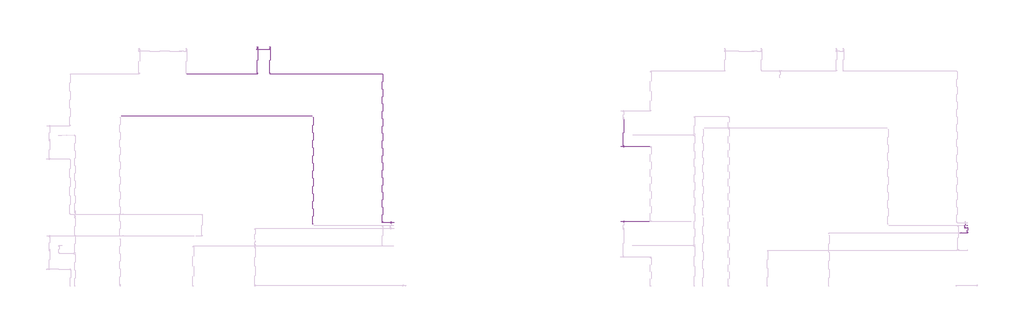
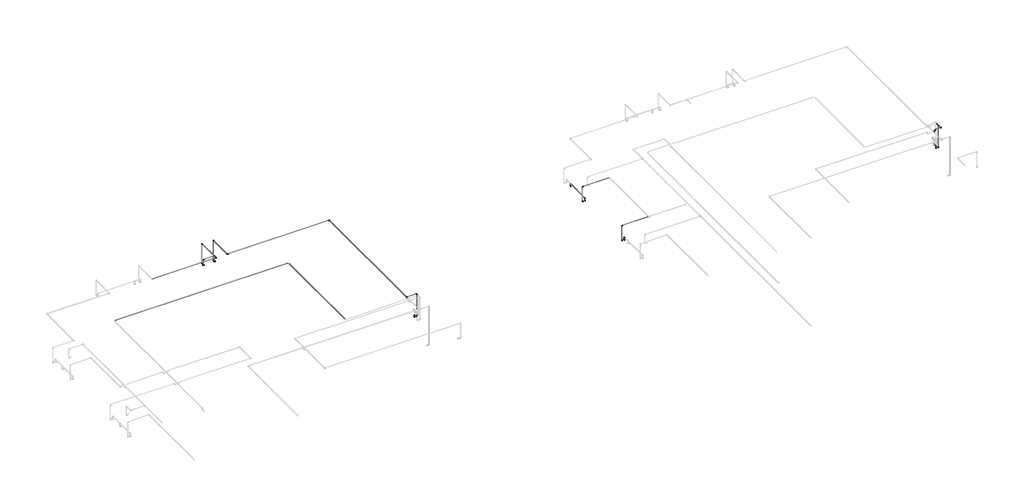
# One storey, part 28 of 40: 35 cable carrier segments, 26 cable carrier fittings, 7 electric appliances.
"""IFC4 building model written with IfcOpenShell, lengths in millimetres."""

from ifc_helpers import new_model, si_unit, point, frame, frame_2d, origin, place, context, project, spatial, circle_curve, trimmed, segment, composite_curve, outline, extrude, transform, mapped, element, save
from components import cable_carrier_fitting_69f1a801, cable_carrier_fitting_42309ea9, electric_appliance_5961a143

model = new_model("IFC4")

# Units and contexts
model_context = context("Model", 3, world=origin())
ifc_project = project(units=[si_unit("LENGTHUNIT", "METRE", prefix="MILLI")], contexts=[model_context])

# Site, building, storey
site = spatial("IfcSite", under=ifc_project)
building = spatial("IfcBuilding", under=site)
storey = spatial("IfcBuildingStorey", under=building, Name="1 этаж", Elevation=0.0)

# Cable carrier fittings
placement = place(None, origin())
cable_carrier_fitting_shape = cable_carrier_fitting_69f1a801(model_context)
element("IfcCableCarrierFitting", 1, ObjectType="ADSK_Поворот_Минимальный размер : Неспецифицируемый", at=placement, inside=storey, context=model_context, shape_type="MappedRepresentation", body=[
    mapped(cable_carrier_fitting_shape, transform((-30452.3240021, 22655.8368161, 2303.0911237), x_axis=(0.0, 1.0, 0.0), y_axis=(0.0, 0.0, 1.0), z_axis=(1.0, 0.0, 0.0))),
])
element("IfcCableCarrierFitting", 2, ObjectType="ADSK_Поворот_Минимальный размер : Неспецифицируемый", at=placement, inside=storey, context=model_context, shape_type="MappedRepresentation", body=[
    mapped(cable_carrier_fitting_shape, transform((-30452.3240021, 22555.6370105, 2550.0), x_axis=(0.0, 0.0, 1.0), y_axis=(1.0, 0.0, 0.0), z_axis=(0.0, 1.0, 0.0))),
])
element("IfcCableCarrierFitting", 3, ObjectType="ADSK_Поворот_Минимальный размер : Неспецифицируемый", at=placement, inside=storey, context=model_context, shape_type="MappedRepresentation", body=[
    mapped(cable_carrier_fitting_shape, transform((-29982.3240021, 22555.6370105, 2550.0), x_axis=(0.0, 0.0, 1.0), y_axis=(-1.0, 0.0, 0.0), z_axis=(0.0, -1.0, 0.0))),
])
element("IfcCableCarrierFitting", 4, ObjectType="ADSK_Поворот_Минимальный размер : Неспецифицируемый", at=placement, inside=storey, context=model_context, shape_type="MappedRepresentation", body=[
    mapped(cable_carrier_fitting_shape, transform((-29982.3240021, 22655.8368161, 2303.0911237), x_axis=(0.0, 1.0, 0.0), y_axis=(0.0, 0.0, 1.0), z_axis=(1.0, 0.0, 0.0))),
])
element("IfcCableCarrierFitting", 5, ObjectType="ADSK_Поворот_Минимальный размер : Неспецифицируемый", at=placement, inside=storey, context=model_context, shape_type="MappedRepresentation", body=[
    mapped(cable_carrier_fitting_shape, transform((-25737.3231226, 21634.6370105, 3189.8517556), x_axis=(0.0, 1.0, 0.0), y_axis=(-1.0, 0.0, 0.0), z_axis=(0.0, 0.0, 1.0))),
])
element("IfcCableCarrierFitting", 6, ObjectType="ADSK_Поворот_Минимальный размер : Неспецифицируемый", at=placement, inside=storey, context=model_context, shape_type="MappedRepresentation", body=[
    mapped(cable_carrier_fitting_shape, transform((-25415.3240021, 16034.6370105, 2300.0), x_axis=(0.0, 0.0, 1.0), y_axis=(0.0, -1.0, 0.0), z_axis=(1.0, 0.0, 0.0))),
])
element("IfcCableCarrierFitting", 7, ObjectType="ADSK_Поворот_Минимальный размер : Неспецифицируемый", at=placement, inside=storey, context=model_context, shape_type="MappedRepresentation", body=[
    mapped(cable_carrier_fitting_shape, transform((-25315.1241965, 16034.6370105, 2212.0911237), x_axis=(1.0, 0.0, 0.0), y_axis=(0.0, 0.0, 1.0), z_axis=(0.0, -1.0, 0.0))),
])
element("IfcCableCarrierFitting", 8, ObjectType="ADSK_Поворот_Минимальный размер : Неспецифицируемый", at=placement, inside=storey, context=model_context, shape_type="MappedRepresentation", body=[
    mapped(cable_carrier_fitting_shape, transform((-25315.1241965, 16034.6370105, 3189.8517556), x_axis=(0.0, 0.0, 1.0), y_axis=(-1.0, 0.0, 0.0), z_axis=(0.0, -1.0, 0.0))),
])
element("IfcCableCarrierFitting", 9, ObjectType="ADSK_Поворот_Минимальный размер : Неспецифицируемый", at=placement, inside=storey, context=model_context, shape_type="MappedRepresentation", body=[
    mapped(cable_carrier_fitting_shape, transform((-25737.3231226, 16034.6370105, 3189.8517556), x_axis=(0.0, -1.0, 0.0), y_axis=(1.0, 0.0, 0.0), z_axis=(0.0, 0.0, 1.0))),
])
element("IfcCableCarrierFitting", 10, ObjectType="ADSK_Поворот_Минимальный размер : Неспецифицируемый", at=placement, inside=storey, context=model_context, shape_type="MappedRepresentation", body=[
    mapped(cable_carrier_fitting_shape, transform((-29982.3240021, 21634.6370105, 3189.8517556), x_axis=(0.0, -1.0, 0.0), y_axis=(1.0, 0.0, 0.0), z_axis=(0.0, 0.0, 1.0))),
])
element("IfcCableCarrierFitting", 11, ObjectType="ADSK_Поворот_Минимальный размер : Неспецифицируемый", at=placement, inside=storey, context=model_context, shape_type="MappedRepresentation", body=[
    mapped(cable_carrier_fitting_shape, transform((-29982.3240021, 22655.8368161, 3189.8517556), x_axis=(0.0, 0.0, 1.0), y_axis=(0.0, -1.0, 0.0), z_axis=(1.0, 0.0, 0.0))),
])
element("IfcCableCarrierFitting", 12, ObjectType="ADSK_Поворот_Минимальный размер : Неспецифицируемый", at=placement, inside=storey, context=model_context, shape_type="MappedRepresentation", body=[
    mapped(cable_carrier_fitting_shape, transform((-30452.3240021, 21634.6370105, 3187.0), x_axis=(1.0, 0.0, 0.0), y_axis=(0.0, 1.0, 0.0), z_axis=(0.0, 0.0, 1.0))),
])
element("IfcCableCarrierFitting", 13, ObjectType="ADSK_Поворот_Минимальный размер : Неспецифицируемый", at=placement, inside=storey, context=model_context, shape_type="MappedRepresentation", body=[
    mapped(cable_carrier_fitting_shape, transform((-30452.3240021, 22655.8368161, 3187.0), x_axis=(0.0, 0.0, 1.0), y_axis=(0.0, -1.0, 0.0), z_axis=(1.0, 0.0, 0.0))),
])
element("IfcCableCarrierFitting", 14, ObjectType="ADSK_Поворот_Минимальный размер : Неспецифицируемый", at=placement, inside=storey, context=model_context, shape_type="MappedRepresentation", body=[
    mapped(cable_carrier_fitting_shape, transform((-16646.3240021, 16064.6370105, 2650.0), x_axis=(0.0, 0.0, 1.0), y_axis=(0.0, -1.0, 0.0), z_axis=(1.0, 0.0, 0.0))),
])
element("IfcCableCarrierFitting", 15, ObjectType="ADSK_Поворот_Минимальный размер : Неспецифицируемый", at=placement, inside=storey, context=model_context, shape_type="MappedRepresentation", body=[
    mapped(cable_carrier_fitting_shape, transform((-16746.5238077, 16064.6370105, 2534.0911237), x_axis=(-1.0, 0.0, 0.0), y_axis=(0.0, 0.0, 1.0), z_axis=(0.0, 1.0, 0.0))),
])
element("IfcCableCarrierFitting", 16, ObjectType="ADSK_Поворот_Минимальный размер : Неспецифицируемый", at=placement, inside=storey, context=model_context, shape_type="MappedRepresentation", body=[
    mapped(cable_carrier_fitting_shape, transform((-16646.3240021, 18899.6370105, 2650.0), x_axis=(0.0, 0.0, 1.0), y_axis=(0.0, 1.0, 0.0), z_axis=(-1.0, 0.0, 0.0))),
])
element("IfcCableCarrierFitting", 17, ObjectType="ADSK_Поворот_Минимальный размер : Неспецифицируемый", at=placement, inside=storey, context=model_context, shape_type="MappedRepresentation", body=[
    mapped(cable_carrier_fitting_shape, transform((-16746.5238077, 18899.6370105, 2534.0911237), x_axis=(-1.0, 0.0, 0.0), y_axis=(0.0, 0.0, 1.0), z_axis=(0.0, 1.0, 0.0))),
])
element("IfcCableCarrierFitting", 18, ObjectType="ADSK_Поворот_Минимальный размер : Неспецифицируемый", at=placement, inside=storey, context=model_context, shape_type="MappedRepresentation", body=[
    mapped(cable_carrier_fitting_shape, transform((-16746.5238077, 18899.6370105, 3187.0), x_axis=(0.0, 0.0, 1.0), y_axis=(1.0, 0.0, 0.0), z_axis=(0.0, 1.0, 0.0))),
])
element("IfcCableCarrierFitting", 19, ObjectType="ADSK_Поворот_Минимальный размер : Неспецифицируемый", at=placement, inside=storey, context=model_context, shape_type="MappedRepresentation", body=[
    mapped(cable_carrier_fitting_shape, transform((-3675.1219918, 15834.6336722, 2212.0958028), x_axis=(1.0, 0.0, 0.0), y_axis=(0.0, 0.0, 1.0), z_axis=(0.0, -1.0, 0.0))),
])
element("IfcCableCarrierFitting", 20, ObjectType="ADSK_Поворот_Минимальный размер : Неспецифицируемый", at=placement, inside=storey, context=model_context, shape_type="MappedRepresentation", body=[
    mapped(cable_carrier_fitting_shape, transform((-3675.1219918, 15834.6336722, 3187.0), x_axis=(0.0, 0.0, 1.0), y_axis=(0.0, -1.0, 0.0), z_axis=(1.0, 0.0, 0.0))),
])
element("IfcCableCarrierFitting", 21, ObjectType="ADSK_Поворот_Минимальный размер : Неспецифицируемый", at=placement, inside=storey, context=model_context, shape_type="MappedRepresentation", body=[
    mapped(cable_carrier_fitting_shape, transform((-3675.1113327, 15646.0044154, 3187.0), x_axis=(1.0, 0.0, 0.0), y_axis=(0.0, 1.0, 0.0), z_axis=(0.0, 0.0, 1.0))),
])
element("IfcCableCarrierFitting", 22, ObjectType="ADSK_Поворот_Минимальный размер : Неспецифицируемый", at=placement, inside=storey, context=model_context, shape_type="MappedRepresentation", body=[
    mapped(cable_carrier_fitting_shape, transform((-3935.1241965, 15646.0044154, 3187.0), x_axis=(-1.0, 0.0, 0.0), y_axis=(0.0, 0.0, -1.0), z_axis=(0.0, -1.0, 0.0))),
])
element("IfcCableCarrierFitting", 23, ObjectType="ADSK_Поворот_Минимальный размер : Неспецифицируемый", at=placement, inside=storey, context=model_context, shape_type="MappedRepresentation", body=[
    mapped(cable_carrier_fitting_shape, transform((-3935.1241965, 15646.0044154, 3120.0), x_axis=(0.0, 0.0, -1.0), y_axis=(-1.0, 0.0, 0.0), z_axis=(0.0, 1.0, 0.0))),
])
element("IfcCableCarrierFitting", 24, ObjectType="ADSK_Поворот_Минимальный размер : Неспецифицируемый", at=placement, inside=storey, context=model_context, shape_type="MappedRepresentation", body=[
    mapped(cable_carrier_fitting_shape, transform((-16746.5238077, 16064.6370105, 3187.0), x_axis=(0.0, 0.0, 1.0), y_axis=(1.0, 0.0, 0.0), z_axis=(0.0, 1.0, 0.0))),
])
element("IfcCableCarrierFitting", 25, ObjectType="ADSK_Поворот_Минимальный размер : Неспецифицируемый", at=placement, inside=storey, context=model_context, shape_type="MappedRepresentation", body=[
    mapped(cable_carrier_fitting_shape, transform((-3775.3240021, 15834.6370105, 2300.0), x_axis=(0.0, 0.0, 1.0), y_axis=(0.0, 1.0, 0.0), z_axis=(-1.0, 0.0, 0.0))),
])
cable_carrier_fitting_2_shape = cable_carrier_fitting_42309ea9(model_context)
element("IfcCableCarrierFitting", 26, ObjectType="ADSK_Поворот_Минимальный размер : Неспецифицируемый", at=placement, inside=storey, context=model_context, shape_type="MappedRepresentation", body=[
    mapped(cable_carrier_fitting_2_shape, transform((-3675.1241965, 15927.1370105, 3189.3033715), x_axis=(0.0, 0.0, 1.0), y_axis=(-1.0, 0.0, 0.0), z_axis=(0.0, -1.0, 0.0))),
])

# Cable carrier segments
element("IfcCableCarrierSegment", 27, ObjectType="Гофрированная труба", at=placement, inside=storey, context=model_context, shape_type="SweptSolid", body=[
    extrude(outline(composite_curve([segment(trimmed(circle_curve(frame_2d((20039.6370105, 3189.9843831)), 10.0), [point((20049.6370105, 3189.9843831))], [point((20039.6370105, 3179.9843831))], False, "CARTESIAN"), True, "CONTINUOUS"), segment(trimmed(circle_curve(frame_2d((20039.6370105, 3189.9843831)), 10.0), [point((20039.6370105, 3179.9843831))], [point((20029.6370105, 3189.9843831))], False, "CARTESIAN"), True, "CONTINUOUS"), segment(trimmed(circle_curve(frame_2d((20039.6370105, 3189.9843831)), 10.0), [point((20029.6370105, 3189.9843831))], [point((20039.6370105, 3199.9843831))], False, "CARTESIAN"), True, "CONTINUOUS"), segment(trimmed(circle_curve(frame_2d((20039.6370105, 3189.9843831)), 10.0), [point((20039.6370105, 3199.9843831))], [point((20049.6370105, 3189.9843831))], False, "CARTESIAN"), True, "CONTINUOUS")], self_intersect=False)), frame((-35576.5641762, 0.0, 0.0), z_axis=(1.0, 0.0, 0.0), x_axis=(0.0, 1.0, 0.0)), (0.0, 0.0, 1.0), 7177.7401741),
])
element("IfcCableCarrierSegment", 28, ObjectType="Гофрированная труба", at=placement, inside=storey, context=model_context, shape_type="SweptSolid", body=[
    extrude(outline(composite_curve([segment(trimmed(circle_curve(frame_2d((3189.9843831, -28352.3240021)), 10.0), [point((3189.9843831, -28342.3240021))], [point((3199.9843831, -28352.3240021))], False, "CARTESIAN"), True, "CONTINUOUS"), segment(trimmed(circle_curve(frame_2d((3189.9843831, -28352.3240021)), 10.0), [point((3199.9843831, -28352.3240021))], [point((3189.9843831, -28362.3240021))], False, "CARTESIAN"), True, "CONTINUOUS"), segment(trimmed(circle_curve(frame_2d((3189.9843831, -28352.3240021)), 10.0), [point((3189.9843831, -28362.3240021))], [point((3179.9843831, -28352.3240021))], False, "CARTESIAN"), True, "CONTINUOUS"), segment(trimmed(circle_curve(frame_2d((3189.9843831, -28352.3240021)), 10.0), [point((3179.9843831, -28352.3240021))], [point((3189.9843831, -28342.3240021))], False, "CARTESIAN"), True, "CONTINUOUS")], self_intersect=False)), frame((0.0, 15973.6370105, 0.0), z_axis=(0.0, 1.0, 0.0), x_axis=(0.0, 0.0, 1.0)), (0.0, 0.0, 1.0), 4019.5),
])
element("IfcCableCarrierSegment", 29, ObjectType="Гофрированная труба", at=placement, inside=storey, context=model_context, shape_type="SweptSolid", body=[
    extrude(outline(composite_curve([segment(trimmed(circle_curve(frame_2d((21634.6370105, 3189.8517556)), 10.0), [point((21624.6370105, 3189.8517556))], [point((21634.6370105, 3199.8517556))], False, "CARTESIAN"), True, "CONTINUOUS"), segment(trimmed(circle_curve(frame_2d((21634.6370105, 3189.8517556)), 10.0), [point((21634.6370105, 3199.8517556))], [point((21644.6370105, 3189.8517556))], False, "CARTESIAN"), True, "CONTINUOUS"), segment(trimmed(circle_curve(frame_2d((21634.6370105, 3189.8517556)), 10.0), [point((21644.6370105, 3189.8517556))], [point((21634.6370105, 3179.8517556))], False, "CARTESIAN"), True, "CONTINUOUS"), segment(trimmed(circle_curve(frame_2d((21634.6370105, 3189.8517556)), 10.0), [point((21634.6370105, 3179.8517556))], [point((21624.6370105, 3189.8517556))], False, "CARTESIAN"), True, "CONTINUOUS")], self_intersect=False)), frame((-29961.3240021, 0.0, 0.0), z_axis=(1.0, 0.0, 0.0), x_axis=(0.0, 1.0, 0.0)), (0.0, 0.0, 1.0), 4203.0008795),
])
element("IfcCableCarrierSegment", 30, ObjectType="Гофрированная труба", at=placement, inside=storey, context=model_context, shape_type="SweptSolid", body=[
    extrude(outline(composite_curve([segment(trimmed(circle_curve(frame_2d((-29982.3240021, 22555.6370105)), 10.0), [point((-29992.3240021, 22555.6370105))], [point((-29982.3240021, 22565.6370105))], False, "CARTESIAN"), True, "CONTINUOUS"), segment(trimmed(circle_curve(frame_2d((-29982.3240021, 22555.6370105)), 10.0), [point((-29982.3240021, 22565.6370105))], [point((-29972.3240021, 22555.6370105))], False, "CARTESIAN"), True, "CONTINUOUS"), segment(trimmed(circle_curve(frame_2d((-29982.3240021, 22555.6370105)), 10.0), [point((-29972.3240021, 22555.6370105))], [point((-29982.3240021, 22545.6370105))], False, "CARTESIAN"), True, "CONTINUOUS"), segment(trimmed(circle_curve(frame_2d((-29982.3240021, 22555.6370105)), 10.0), [point((-29982.3240021, 22545.6370105))], [point((-29992.3240021, 22555.6370105))], False, "CARTESIAN"), True, "CONTINUOUS")], self_intersect=False)), frame((0.0, 0.0, 2332.1207114), z_axis=(0.0, 0.0, 1.0), x_axis=(1.0, 0.0, 0.0)), (0.0, 0.0, 1.0), 196.8792886),
])
element("IfcCableCarrierSegment", 31, ObjectType="Гофрированная труба", at=placement, inside=storey, context=model_context, shape_type="SweptSolid", body=[
    extrude(outline(composite_curve([segment(trimmed(circle_curve(frame_2d((3187.0, -30452.3240021)), 10.0), [point((3187.0, -30442.3240021))], [point((3197.0, -30452.3240021))], False, "CARTESIAN"), True, "CONTINUOUS"), segment(trimmed(circle_curve(frame_2d((3187.0, -30452.3240021)), 10.0), [point((3197.0, -30452.3240021))], [point((3187.0, -30462.3240021))], False, "CARTESIAN"), True, "CONTINUOUS"), segment(trimmed(circle_curve(frame_2d((3187.0, -30452.3240021)), 10.0), [point((3187.0, -30462.3240021))], [point((3177.0, -30452.3240021))], False, "CARTESIAN"), True, "CONTINUOUS"), segment(trimmed(circle_curve(frame_2d((3187.0, -30452.3240021)), 10.0), [point((3177.0, -30452.3240021))], [point((3187.0, -30442.3240021))], False, "CARTESIAN"), True, "CONTINUOUS")], self_intersect=False)), frame((0.0, 21655.6370105, 0.0), z_axis=(0.0, 1.0, 0.0), x_axis=(0.0, 0.0, 1.0)), (0.0, 0.0, 1.0), 979.1998056),
])
element("IfcCableCarrierSegment", 32, ObjectType="Гофрированная труба", at=placement, inside=storey, context=model_context, shape_type="SweptSolid", body=[
    extrude(outline(composite_curve([segment(trimmed(circle_curve(frame_2d((2303.0911237, -30452.3240021)), 10.0), [point((2303.0911237, -30442.3240021))], [point((2313.0911237, -30452.3240021))], False, "CARTESIAN"), True, "CONTINUOUS"), segment(trimmed(circle_curve(frame_2d((2303.0911237, -30452.3240021)), 10.0), [point((2313.0911237, -30452.3240021))], [point((2303.0911237, -30462.3240021))], False, "CARTESIAN"), True, "CONTINUOUS"), segment(trimmed(circle_curve(frame_2d((2303.0911237, -30452.3240021)), 10.0), [point((2303.0911237, -30462.3240021))], [point((2293.0911237, -30452.3240021))], False, "CARTESIAN"), True, "CONTINUOUS"), segment(trimmed(circle_curve(frame_2d((2303.0911237, -30452.3240021)), 10.0), [point((2293.0911237, -30452.3240021))], [point((2303.0911237, -30442.3240021))], False, "CARTESIAN"), True, "CONTINUOUS")], self_intersect=False)), frame((0.0, 22558.6370105, 0.0), z_axis=(0.0, 1.0, 0.0), x_axis=(0.0, 0.0, 1.0)), (0.0, 0.0, 1.0), 76.1998056),
])
element("IfcCableCarrierSegment", 33, ObjectType="Гофрированная труба", at=placement, inside=storey, context=model_context, shape_type="SweptSolid", body=[
    extrude(outline(composite_curve([segment(trimmed(circle_curve(frame_2d((-30452.3240021, 22655.8368161)), 10.0), [point((-30462.3240021, 22655.8368161))], [point((-30452.3240021, 22665.8368161))], False, "CARTESIAN"), True, "CONTINUOUS"), segment(trimmed(circle_curve(frame_2d((-30452.3240021, 22655.8368161)), 10.0), [point((-30452.3240021, 22665.8368161))], [point((-30442.3240021, 22655.8368161))], False, "CARTESIAN"), True, "CONTINUOUS"), segment(trimmed(circle_curve(frame_2d((-30452.3240021, 22655.8368161)), 10.0), [point((-30442.3240021, 22655.8368161))], [point((-30452.3240021, 22645.8368161))], False, "CARTESIAN"), True, "CONTINUOUS"), segment(trimmed(circle_curve(frame_2d((-30452.3240021, 22655.8368161)), 10.0), [point((-30452.3240021, 22645.8368161))], [point((-30462.3240021, 22655.8368161))], False, "CARTESIAN"), True, "CONTINUOUS")], self_intersect=False)), frame((0.0, 0.0, 2324.0911237), z_axis=(0.0, 0.0, 1.0), x_axis=(1.0, 0.0, 0.0)), (0.0, 0.0, 1.0), 841.9088763),
])
element("IfcCableCarrierSegment", 34, ObjectType="Гофрированная труба", at=placement, inside=storey, context=model_context, shape_type="SweptSolid", body=[
    extrude(outline(composite_curve([segment(trimmed(circle_curve(frame_2d((22555.6370105, 2550.0)), 10.0), [point((22545.6370105, 2550.0))], [point((22555.6370105, 2560.0))], False, "CARTESIAN"), True, "CONTINUOUS"), segment(trimmed(circle_curve(frame_2d((22555.6370105, 2550.0)), 10.0), [point((22555.6370105, 2560.0))], [point((22565.6370105, 2550.0))], False, "CARTESIAN"), True, "CONTINUOUS"), segment(trimmed(circle_curve(frame_2d((22555.6370105, 2550.0)), 10.0), [point((22565.6370105, 2550.0))], [point((22555.6370105, 2540.0))], False, "CARTESIAN"), True, "CONTINUOUS"), segment(trimmed(circle_curve(frame_2d((22555.6370105, 2550.0)), 10.0), [point((22555.6370105, 2540.0))], [point((22545.6370105, 2550.0))], False, "CARTESIAN"), True, "CONTINUOUS")], self_intersect=False)), frame((-30431.3240021, 0.0, 0.0), z_axis=(1.0, 0.0, 0.0), x_axis=(0.0, 1.0, 0.0)), (0.0, 0.0, 1.0), 428.0),
])
element("IfcCableCarrierSegment", 35, ObjectType="Гофрированная труба", at=placement, inside=storey, context=model_context, shape_type="SweptSolid", body=[
    extrude(outline(composite_curve([segment(trimmed(circle_curve(frame_2d((-30452.3240021, 22555.6370105)), 10.0), [point((-30462.3240021, 22555.6370105))], [point((-30452.3240021, 22565.6370105))], False, "CARTESIAN"), True, "CONTINUOUS"), segment(trimmed(circle_curve(frame_2d((-30452.3240021, 22555.6370105)), 10.0), [point((-30452.3240021, 22565.6370105))], [point((-30442.3240021, 22555.6370105))], False, "CARTESIAN"), True, "CONTINUOUS"), segment(trimmed(circle_curve(frame_2d((-30452.3240021, 22555.6370105)), 10.0), [point((-30442.3240021, 22555.6370105))], [point((-30452.3240021, 22545.6370105))], False, "CARTESIAN"), True, "CONTINUOUS"), segment(trimmed(circle_curve(frame_2d((-30452.3240021, 22555.6370105)), 10.0), [point((-30452.3240021, 22545.6370105))], [point((-30462.3240021, 22555.6370105))], False, "CARTESIAN"), True, "CONTINUOUS")], self_intersect=False)), frame((0.0, 0.0, 2332.1207114), z_axis=(0.0, 0.0, 1.0), x_axis=(1.0, 0.0, 0.0)), (0.0, 0.0, 1.0), 196.8792886),
])
element("IfcCableCarrierSegment", 36, ObjectType="Гофрированная труба", at=placement, inside=storey, context=model_context, shape_type="SweptSolid", body=[
    extrude(outline(composite_curve([segment(trimmed(circle_curve(frame_2d((3189.8517556, -29982.3240021)), 10.0), [point((3189.8517556, -29972.3240021))], [point((3199.8517556, -29982.3240021))], False, "CARTESIAN"), True, "CONTINUOUS"), segment(trimmed(circle_curve(frame_2d((3189.8517556, -29982.3240021)), 10.0), [point((3199.8517556, -29982.3240021))], [point((3189.8517556, -29992.3240021))], False, "CARTESIAN"), True, "CONTINUOUS"), segment(trimmed(circle_curve(frame_2d((3189.8517556, -29982.3240021)), 10.0), [point((3189.8517556, -29992.3240021))], [point((3179.8517556, -29982.3240021))], False, "CARTESIAN"), True, "CONTINUOUS"), segment(trimmed(circle_curve(frame_2d((3189.8517556, -29982.3240021)), 10.0), [point((3179.8517556, -29982.3240021))], [point((3189.8517556, -29972.3240021))], False, "CARTESIAN"), True, "CONTINUOUS")], self_intersect=False)), frame((0.0, 21655.6370105, 0.0), z_axis=(0.0, 1.0, 0.0), x_axis=(0.0, 0.0, 1.0)), (0.0, 0.0, 1.0), 979.1998056),
])
element("IfcCableCarrierSegment", 37, ObjectType="Гофрированная труба", at=placement, inside=storey, context=model_context, shape_type="SweptSolid", body=[
    extrude(outline(composite_curve([segment(trimmed(circle_curve(frame_2d((2303.0911237, -29982.3240021)), 10.0), [point((2303.0911237, -29972.3240021))], [point((2313.0911237, -29982.3240021))], False, "CARTESIAN"), True, "CONTINUOUS"), segment(trimmed(circle_curve(frame_2d((2303.0911237, -29982.3240021)), 10.0), [point((2313.0911237, -29982.3240021))], [point((2303.0911237, -29992.3240021))], False, "CARTESIAN"), True, "CONTINUOUS"), segment(trimmed(circle_curve(frame_2d((2303.0911237, -29982.3240021)), 10.0), [point((2303.0911237, -29992.3240021))], [point((2293.0911237, -29982.3240021))], False, "CARTESIAN"), True, "CONTINUOUS"), segment(trimmed(circle_curve(frame_2d((2303.0911237, -29982.3240021)), 10.0), [point((2293.0911237, -29982.3240021))], [point((2303.0911237, -29972.3240021))], False, "CARTESIAN"), True, "CONTINUOUS")], self_intersect=False)), frame((0.0, 22558.6370105, 0.0), z_axis=(0.0, 1.0, 0.0), x_axis=(0.0, 0.0, 1.0)), (0.0, 0.0, 1.0), 76.1998056),
])
element("IfcCableCarrierSegment", 38, ObjectType="Гофрированная труба", at=placement, inside=storey, context=model_context, shape_type="SweptSolid", body=[
    extrude(outline(composite_curve([segment(trimmed(circle_curve(frame_2d((-29982.3240021, 22655.8368161)), 10.0), [point((-29992.3240021, 22655.8368161))], [point((-29982.3240021, 22665.8368161))], False, "CARTESIAN"), True, "CONTINUOUS"), segment(trimmed(circle_curve(frame_2d((-29982.3240021, 22655.8368161)), 10.0), [point((-29982.3240021, 22665.8368161))], [point((-29972.3240021, 22655.8368161))], False, "CARTESIAN"), True, "CONTINUOUS"), segment(trimmed(circle_curve(frame_2d((-29982.3240021, 22655.8368161)), 10.0), [point((-29972.3240021, 22655.8368161))], [point((-29982.3240021, 22645.8368161))], False, "CARTESIAN"), True, "CONTINUOUS"), segment(trimmed(circle_curve(frame_2d((-29982.3240021, 22655.8368161)), 10.0), [point((-29982.3240021, 22645.8368161))], [point((-29992.3240021, 22655.8368161))], False, "CARTESIAN"), True, "CONTINUOUS")], self_intersect=False)), frame((0.0, 0.0, 2324.0911237), z_axis=(0.0, 0.0, 1.0), x_axis=(1.0, 0.0, 0.0)), (0.0, 0.0, 1.0), 844.7606319),
])
element("IfcCableCarrierSegment", 39, ObjectType="Гофрированная труба", at=placement, inside=storey, context=model_context, shape_type="SweptSolid", body=[
    extrude(outline(composite_curve([segment(trimmed(circle_curve(frame_2d((21634.6370105, 3187.0)), 10.0), [point((21624.6370105, 3187.0))], [point((21634.6370105, 3197.0))], False, "CARTESIAN"), True, "CONTINUOUS"), segment(trimmed(circle_curve(frame_2d((21634.6370105, 3187.0)), 10.0), [point((21634.6370105, 3197.0))], [point((21644.6370105, 3187.0))], False, "CARTESIAN"), True, "CONTINUOUS"), segment(trimmed(circle_curve(frame_2d((21634.6370105, 3187.0)), 10.0), [point((21644.6370105, 3187.0))], [point((21634.6370105, 3177.0))], False, "CARTESIAN"), True, "CONTINUOUS"), segment(trimmed(circle_curve(frame_2d((21634.6370105, 3187.0)), 10.0), [point((21634.6370105, 3177.0))], [point((21624.6370105, 3187.0))], False, "CARTESIAN"), True, "CONTINUOUS")], self_intersect=False)), frame((-33101.3240021, 0.0, 0.0), z_axis=(1.0, 0.0, 0.0), x_axis=(0.0, 1.0, 0.0)), (0.0, 0.0, 1.0), 2628.0),
])
element("IfcCableCarrierSegment", 40, ObjectType="Гофрированная труба", at=placement, inside=storey, context=model_context, shape_type="SweptSolid", body=[
    extrude(outline(composite_curve([segment(trimmed(circle_curve(frame_2d((-25415.3240021, 16034.6370105)), 10.0), [point((-25425.3240021, 16034.6370105))], [point((-25415.3240021, 16044.6370105))], False, "CARTESIAN"), True, "CONTINUOUS"), segment(trimmed(circle_curve(frame_2d((-25415.3240021, 16034.6370105)), 10.0), [point((-25415.3240021, 16044.6370105))], [point((-25405.3240021, 16034.6370105))], False, "CARTESIAN"), True, "CONTINUOUS"), segment(trimmed(circle_curve(frame_2d((-25415.3240021, 16034.6370105)), 10.0), [point((-25405.3240021, 16034.6370105))], [point((-25415.3240021, 16024.6370105))], False, "CARTESIAN"), True, "CONTINUOUS"), segment(trimmed(circle_curve(frame_2d((-25415.3240021, 16034.6370105)), 10.0), [point((-25415.3240021, 16024.6370105))], [point((-25425.3240021, 16034.6370105))], False, "CARTESIAN"), True, "CONTINUOUS")], self_intersect=False)), frame((0.0, 0.0, 2241.1207114), z_axis=(0.0, 0.0, 1.0), x_axis=(1.0, 0.0, 0.0)), (0.0, 0.0, 1.0), 37.8792886),
])
element("IfcCableCarrierSegment", 41, ObjectType="Гофрированная труба", at=placement, inside=storey, context=model_context, shape_type="SweptSolid", body=[
    extrude(outline(composite_curve([segment(trimmed(circle_curve(frame_2d((16034.6370105, 3189.8517556)), 10.0), [point((16044.6370105, 3189.8517556))], [point((16034.6370105, 3179.8517556))], False, "CARTESIAN"), True, "CONTINUOUS"), segment(trimmed(circle_curve(frame_2d((16034.6370105, 3189.8517556)), 10.0), [point((16034.6370105, 3179.8517556))], [point((16024.6370105, 3189.8517556))], False, "CARTESIAN"), True, "CONTINUOUS"), segment(trimmed(circle_curve(frame_2d((16034.6370105, 3189.8517556)), 10.0), [point((16024.6370105, 3189.8517556))], [point((16034.6370105, 3199.8517556))], False, "CARTESIAN"), True, "CONTINUOUS"), segment(trimmed(circle_curve(frame_2d((16034.6370105, 3189.8517556)), 10.0), [point((16034.6370105, 3199.8517556))], [point((16044.6370105, 3189.8517556))], False, "CARTESIAN"), True, "CONTINUOUS")], self_intersect=False)), frame((-25716.3231226, 0.0, 0.0), z_axis=(1.0, 0.0, 0.0), x_axis=(0.0, 1.0, 0.0)), (0.0, 0.0, 1.0), 380.1989261),
])
element("IfcCableCarrierSegment", 42, ObjectType="Гофрированная труба", at=placement, inside=storey, context=model_context, shape_type="SweptSolid", body=[
    extrude(outline(composite_curve([segment(trimmed(circle_curve(frame_2d((16034.6370105, 2212.0911237)), 10.0), [point((16024.6370105, 2212.0911237))], [point((16034.6370105, 2222.0911237))], False, "CARTESIAN"), True, "CONTINUOUS"), segment(trimmed(circle_curve(frame_2d((16034.6370105, 2212.0911237)), 10.0), [point((16034.6370105, 2222.0911237))], [point((16044.6370105, 2212.0911237))], False, "CARTESIAN"), True, "CONTINUOUS"), segment(trimmed(circle_curve(frame_2d((16034.6370105, 2212.0911237)), 10.0), [point((16044.6370105, 2212.0911237))], [point((16034.6370105, 2202.0911237))], False, "CARTESIAN"), True, "CONTINUOUS"), segment(trimmed(circle_curve(frame_2d((16034.6370105, 2212.0911237)), 10.0), [point((16034.6370105, 2202.0911237))], [point((16024.6370105, 2212.0911237))], False, "CARTESIAN"), True, "CONTINUOUS")], self_intersect=False)), frame((-25412.3240021, 0.0, 0.0), z_axis=(1.0, 0.0, 0.0), x_axis=(0.0, 1.0, 0.0)), (0.0, 0.0, 1.0), 76.1998056),
])
element("IfcCableCarrierSegment", 43, ObjectType="Гофрированная труба", at=placement, inside=storey, context=model_context, shape_type="SweptSolid", body=[
    extrude(outline(composite_curve([segment(trimmed(circle_curve(frame_2d((-25315.1241965, 16034.6370105)), 10.0), [point((-25325.1241965, 16034.6370105))], [point((-25315.1241965, 16044.6370105))], False, "CARTESIAN"), True, "CONTINUOUS"), segment(trimmed(circle_curve(frame_2d((-25315.1241965, 16034.6370105)), 10.0), [point((-25315.1241965, 16044.6370105))], [point((-25305.1241965, 16034.6370105))], False, "CARTESIAN"), True, "CONTINUOUS"), segment(trimmed(circle_curve(frame_2d((-25315.1241965, 16034.6370105)), 10.0), [point((-25305.1241965, 16034.6370105))], [point((-25315.1241965, 16024.6370105))], False, "CARTESIAN"), True, "CONTINUOUS"), segment(trimmed(circle_curve(frame_2d((-25315.1241965, 16034.6370105)), 10.0), [point((-25315.1241965, 16024.6370105))], [point((-25325.1241965, 16034.6370105))], False, "CARTESIAN"), True, "CONTINUOUS")], self_intersect=False)), frame((0.0, 0.0, 2233.0911237), z_axis=(0.0, 0.0, 1.0), x_axis=(1.0, 0.0, 0.0)), (0.0, 0.0, 1.0), 935.7606319),
])
element("IfcCableCarrierSegment", 44, ObjectType="Гофрированная труба", at=placement, inside=storey, context=model_context, shape_type="SweptSolid", body=[
    extrude(outline(composite_curve([segment(trimmed(circle_curve(frame_2d((3189.8517556, -25737.3231226)), 10.0), [point((3189.8517556, -25747.3231226))], [point((3179.8517556, -25737.3231226))], False, "CARTESIAN"), True, "CONTINUOUS"), segment(trimmed(circle_curve(frame_2d((3189.8517556, -25737.3231226)), 10.0), [point((3179.8517556, -25737.3231226))], [point((3189.8517556, -25727.3231226))], False, "CARTESIAN"), True, "CONTINUOUS"), segment(trimmed(circle_curve(frame_2d((3189.8517556, -25737.3231226)), 10.0), [point((3189.8517556, -25727.3231226))], [point((3199.8517556, -25737.3231226))], False, "CARTESIAN"), True, "CONTINUOUS"), segment(trimmed(circle_curve(frame_2d((3189.8517556, -25737.3231226)), 10.0), [point((3199.8517556, -25737.3231226))], [point((3189.8517556, -25747.3231226))], False, "CARTESIAN"), True, "CONTINUOUS")], self_intersect=False)), frame((0.0, 16055.6370105, 0.0), z_axis=(0.0, 1.0, 0.0), x_axis=(0.0, 0.0, 1.0)), (0.0, 0.0, 1.0), 5558.0),
])
element("IfcCableCarrierSegment", 45, ObjectType="Гофрированная труба", at=placement, inside=storey, context=model_context, shape_type="SweptSolid", body=[
    extrude(outline(composite_curve([segment(trimmed(circle_curve(frame_2d((-16646.3240021, 16064.6370105)), 10.0), [point((-16656.3240021, 16064.6370105))], [point((-16646.3240021, 16074.6370105))], False, "CARTESIAN"), True, "CONTINUOUS"), segment(trimmed(circle_curve(frame_2d((-16646.3240021, 16064.6370105)), 10.0), [point((-16646.3240021, 16074.6370105))], [point((-16636.3240021, 16064.6370105))], False, "CARTESIAN"), True, "CONTINUOUS"), segment(trimmed(circle_curve(frame_2d((-16646.3240021, 16064.6370105)), 10.0), [point((-16636.3240021, 16064.6370105))], [point((-16646.3240021, 16054.6370105))], False, "CARTESIAN"), True, "CONTINUOUS"), segment(trimmed(circle_curve(frame_2d((-16646.3240021, 16064.6370105)), 10.0), [point((-16646.3240021, 16054.6370105))], [point((-16656.3240021, 16064.6370105))], False, "CARTESIAN"), True, "CONTINUOUS")], self_intersect=False)), frame((0.0, 0.0, 2563.1207114), z_axis=(0.0, 0.0, 1.0), x_axis=(1.0, 0.0, 0.0)), (0.0, 0.0, 1.0), 65.8792886),
])
element("IfcCableCarrierSegment", 46, ObjectType="Гофрированная труба", at=placement, inside=storey, context=model_context, shape_type="SweptSolid", body=[
    extrude(outline(composite_curve([segment(trimmed(circle_curve(frame_2d((16064.6370105, 2534.0911237)), 10.0), [point((16074.6370105, 2534.0911237))], [point((16064.6370105, 2524.0911237))], False, "CARTESIAN"), True, "CONTINUOUS"), segment(trimmed(circle_curve(frame_2d((16064.6370105, 2534.0911237)), 10.0), [point((16064.6370105, 2524.0911237))], [point((16054.6370105, 2534.0911237))], False, "CARTESIAN"), True, "CONTINUOUS"), segment(trimmed(circle_curve(frame_2d((16064.6370105, 2534.0911237)), 10.0), [point((16054.6370105, 2534.0911237))], [point((16064.6370105, 2544.0911237))], False, "CARTESIAN"), True, "CONTINUOUS"), segment(trimmed(circle_curve(frame_2d((16064.6370105, 2534.0911237)), 10.0), [point((16064.6370105, 2544.0911237))], [point((16074.6370105, 2534.0911237))], False, "CARTESIAN"), True, "CONTINUOUS")], self_intersect=False)), frame((-16725.5238077, 0.0, 0.0), z_axis=(1.0, 0.0, 0.0), x_axis=(0.0, 1.0, 0.0)), (0.0, 0.0, 1.0), 76.1998056),
])
element("IfcCableCarrierSegment", 47, ObjectType="Гофрированная труба", at=placement, inside=storey, context=model_context, shape_type="SweptSolid", body=[
    extrude(outline(composite_curve([segment(trimmed(circle_curve(frame_2d((-16746.5238077, 16064.6370105)), 10.0), [point((-16756.5238077, 16064.6370105))], [point((-16746.5238077, 16074.6370105))], False, "CARTESIAN"), True, "CONTINUOUS"), segment(trimmed(circle_curve(frame_2d((-16746.5238077, 16064.6370105)), 10.0), [point((-16746.5238077, 16074.6370105))], [point((-16736.5238077, 16064.6370105))], False, "CARTESIAN"), True, "CONTINUOUS"), segment(trimmed(circle_curve(frame_2d((-16746.5238077, 16064.6370105)), 10.0), [point((-16736.5238077, 16064.6370105))], [point((-16746.5238077, 16054.6370105))], False, "CARTESIAN"), True, "CONTINUOUS"), segment(trimmed(circle_curve(frame_2d((-16746.5238077, 16064.6370105)), 10.0), [point((-16746.5238077, 16054.6370105))], [point((-16756.5238077, 16064.6370105))], False, "CARTESIAN"), True, "CONTINUOUS")], self_intersect=False)), frame((0.0, 0.0, 2555.0911237), z_axis=(0.0, 0.0, 1.0), x_axis=(1.0, 0.0, 0.0)), (0.0, 0.0, 1.0), 610.9088763),
])
element("IfcCableCarrierSegment", 48, ObjectType="Гофрированная труба", at=placement, inside=storey, context=model_context, shape_type="SweptSolid", body=[
    extrude(outline(composite_curve([segment(trimmed(circle_curve(frame_2d((-16646.3240021, 18899.6370105)), 10.0), [point((-16656.3240021, 18899.6370105))], [point((-16646.3240021, 18909.6370105))], False, "CARTESIAN"), True, "CONTINUOUS"), segment(trimmed(circle_curve(frame_2d((-16646.3240021, 18899.6370105)), 10.0), [point((-16646.3240021, 18909.6370105))], [point((-16636.3240021, 18899.6370105))], False, "CARTESIAN"), True, "CONTINUOUS"), segment(trimmed(circle_curve(frame_2d((-16646.3240021, 18899.6370105)), 10.0), [point((-16636.3240021, 18899.6370105))], [point((-16646.3240021, 18889.6370105))], False, "CARTESIAN"), True, "CONTINUOUS"), segment(trimmed(circle_curve(frame_2d((-16646.3240021, 18899.6370105)), 10.0), [point((-16646.3240021, 18889.6370105))], [point((-16656.3240021, 18899.6370105))], False, "CARTESIAN"), True, "CONTINUOUS")], self_intersect=False)), frame((0.0, 0.0, 2563.1207114), z_axis=(0.0, 0.0, 1.0), x_axis=(1.0, 0.0, 0.0)), (0.0, 0.0, 1.0), 65.8792886),
])
element("IfcCableCarrierSegment", 49, ObjectType="Гофрированная труба", at=placement, inside=storey, context=model_context, shape_type="SweptSolid", body=[
    extrude(outline(composite_curve([segment(trimmed(circle_curve(frame_2d((-16646.3240021, 19952.1370105)), 10.0), [point((-16656.3240021, 19952.1370105))], [point((-16646.3240021, 19962.1370105))], False, "CARTESIAN"), True, "CONTINUOUS"), segment(trimmed(circle_curve(frame_2d((-16646.3240021, 19952.1370105)), 10.0), [point((-16646.3240021, 19962.1370105))], [point((-16636.3240021, 19952.1370105))], False, "CARTESIAN"), True, "CONTINUOUS"), segment(trimmed(circle_curve(frame_2d((-16646.3240021, 19952.1370105)), 10.0), [point((-16636.3240021, 19952.1370105))], [point((-16646.3240021, 19942.1370105))], False, "CARTESIAN"), True, "CONTINUOUS"), segment(trimmed(circle_curve(frame_2d((-16646.3240021, 19952.1370105)), 10.0), [point((-16646.3240021, 19942.1370105))], [point((-16656.3240021, 19952.1370105))], False, "CARTESIAN"), True, "CONTINUOUS")], self_intersect=False)), frame((0.0, 0.0, 2563.1207114), z_axis=(0.0, 0.0, 1.0), x_axis=(1.0, 0.0, 0.0)), (0.0, 0.0, 1.0), 56.8792886),
])
element("IfcCableCarrierSegment", 50, ObjectType="Гофрированная труба", at=placement, inside=storey, context=model_context, shape_type="SweptSolid", body=[
    extrude(outline(composite_curve([segment(trimmed(circle_curve(frame_2d((2650.0, -16646.3240021)), 10.0), [point((2650.0, -16656.3240021))], [point((2640.0, -16646.3240021))], False, "CARTESIAN"), True, "CONTINUOUS"), segment(trimmed(circle_curve(frame_2d((2650.0, -16646.3240021)), 10.0), [point((2640.0, -16646.3240021))], [point((2650.0, -16636.3240021))], False, "CARTESIAN"), True, "CONTINUOUS"), segment(trimmed(circle_curve(frame_2d((2650.0, -16646.3240021)), 10.0), [point((2650.0, -16636.3240021))], [point((2660.0, -16646.3240021))], False, "CARTESIAN"), True, "CONTINUOUS"), segment(trimmed(circle_curve(frame_2d((2650.0, -16646.3240021)), 10.0), [point((2660.0, -16646.3240021))], [point((2650.0, -16656.3240021))], False, "CARTESIAN"), True, "CONTINUOUS")], self_intersect=False)), frame((0.0, 18920.6370105, 0.0), z_axis=(0.0, 1.0, 0.0), x_axis=(0.0, 0.0, 1.0)), (0.0, 0.0, 1.0), 1001.5),
])
element("IfcCableCarrierSegment", 51, ObjectType="Гофрированная труба", at=placement, inside=storey, context=model_context, shape_type="SweptSolid", body=[
    extrude(outline(composite_curve([segment(trimmed(circle_curve(frame_2d((18899.6370105, 3187.0)), 10.0), [point((18889.6370105, 3187.0))], [point((18899.6370105, 3197.0))], False, "CARTESIAN"), True, "CONTINUOUS"), segment(trimmed(circle_curve(frame_2d((18899.6370105, 3187.0)), 10.0), [point((18899.6370105, 3197.0))], [point((18909.6370105, 3187.0))], False, "CARTESIAN"), True, "CONTINUOUS"), segment(trimmed(circle_curve(frame_2d((18899.6370105, 3187.0)), 10.0), [point((18909.6370105, 3187.0))], [point((18899.6370105, 3177.0))], False, "CARTESIAN"), True, "CONTINUOUS"), segment(trimmed(circle_curve(frame_2d((18899.6370105, 3187.0)), 10.0), [point((18899.6370105, 3177.0))], [point((18889.6370105, 3187.0))], False, "CARTESIAN"), True, "CONTINUOUS")], self_intersect=False)), frame((-16725.5238077, 0.0, 0.0), z_axis=(1.0, 0.0, 0.0), x_axis=(0.0, 1.0, 0.0)), (0.0, 0.0, 1.0), 1082.1998056),
])
element("IfcCableCarrierSegment", 52, ObjectType="Гофрированная труба", at=placement, inside=storey, context=model_context, shape_type="SweptSolid", body=[
    extrude(outline(composite_curve([segment(trimmed(circle_curve(frame_2d((18899.6370105, 2534.0911237)), 10.0), [point((18909.6370105, 2534.0911237))], [point((18899.6370105, 2524.0911237))], False, "CARTESIAN"), True, "CONTINUOUS"), segment(trimmed(circle_curve(frame_2d((18899.6370105, 2534.0911237)), 10.0), [point((18899.6370105, 2524.0911237))], [point((18889.6370105, 2534.0911237))], False, "CARTESIAN"), True, "CONTINUOUS"), segment(trimmed(circle_curve(frame_2d((18899.6370105, 2534.0911237)), 10.0), [point((18889.6370105, 2534.0911237))], [point((18899.6370105, 2544.0911237))], False, "CARTESIAN"), True, "CONTINUOUS"), segment(trimmed(circle_curve(frame_2d((18899.6370105, 2534.0911237)), 10.0), [point((18899.6370105, 2544.0911237))], [point((18909.6370105, 2534.0911237))], False, "CARTESIAN"), True, "CONTINUOUS")], self_intersect=False)), frame((-16725.5238077, 0.0, 0.0), z_axis=(1.0, 0.0, 0.0), x_axis=(0.0, 1.0, 0.0)), (0.0, 0.0, 1.0), 76.1998056),
])
element("IfcCableCarrierSegment", 53, ObjectType="Гофрированная труба", at=placement, inside=storey, context=model_context, shape_type="SweptSolid", body=[
    extrude(outline(composite_curve([segment(trimmed(circle_curve(frame_2d((-16746.5238077, 18899.6370105)), 10.0), [point((-16756.5238077, 18899.6370105))], [point((-16746.5238077, 18909.6370105))], False, "CARTESIAN"), True, "CONTINUOUS"), segment(trimmed(circle_curve(frame_2d((-16746.5238077, 18899.6370105)), 10.0), [point((-16746.5238077, 18909.6370105))], [point((-16736.5238077, 18899.6370105))], False, "CARTESIAN"), True, "CONTINUOUS"), segment(trimmed(circle_curve(frame_2d((-16746.5238077, 18899.6370105)), 10.0), [point((-16736.5238077, 18899.6370105))], [point((-16746.5238077, 18889.6370105))], False, "CARTESIAN"), True, "CONTINUOUS"), segment(trimmed(circle_curve(frame_2d((-16746.5238077, 18899.6370105)), 10.0), [point((-16746.5238077, 18889.6370105))], [point((-16756.5238077, 18899.6370105))], False, "CARTESIAN"), True, "CONTINUOUS")], self_intersect=False)), frame((0.0, 0.0, 2555.0911237), z_axis=(0.0, 0.0, 1.0), x_axis=(1.0, 0.0, 0.0)), (0.0, 0.0, 1.0), 610.9088763),
])
element("IfcCableCarrierSegment", 54, ObjectType="Гофрированная труба", at=placement, inside=storey, context=model_context, shape_type="SweptSolid", body=[
    extrude(outline(composite_curve([segment(trimmed(circle_curve(frame_2d((0.0, 10.0)), 10.0), [point((-10.0, 10.0))], [point((1e-07, 20.0))], False, "CARTESIAN"), True, "CONTINUOUS"), segment(trimmed(circle_curve(frame_2d((0.0, 10.0)), 10.0), [point((1e-07, 20.0))], [point((10.0, 10.0))], False, "CARTESIAN"), True, "CONTINUOUS"), segment(trimmed(circle_curve(frame_2d((0.0, 10.0)), 10.0), [point((10.0, 10.0))], [point((0.0, 0.0))], False, "CARTESIAN"), True, "CONTINUOUS"), segment(trimmed(circle_curve(frame_2d((0.0, 10.0)), 10.0), [point((0.0, 0.0))], [point((-10.0, 10.0))], False, "CARTESIAN"), True, "CONTINUOUS")], self_intersect=False)), frame((-3772.3233881, 15834.6370105, 2202.0911237), z_axis=(0.9999999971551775, -4.380894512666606e-05, 6.140375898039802e-05), x_axis=(4.3808945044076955e-05, 0.9999999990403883, 2.69003397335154e-09)), (0.0, 0.0, 1.0), 76.2020105),
])
element("IfcCableCarrierSegment", 55, ObjectType="Гофрированная труба", at=placement, inside=storey, context=model_context, shape_type="SweptSolid", body=[
    extrude(outline(composite_curve([segment(trimmed(circle_curve(frame_2d((-3675.1219918, 15834.6336722)), 10.0), [point((-3685.1219918, 15834.6336722))], [point((-3675.1219918, 15844.6336722))], False, "CARTESIAN"), True, "CONTINUOUS"), segment(trimmed(circle_curve(frame_2d((-3675.1219918, 15834.6336722)), 10.0), [point((-3675.1219918, 15844.6336722))], [point((-3665.1219918, 15834.6336722))], False, "CARTESIAN"), True, "CONTINUOUS"), segment(trimmed(circle_curve(frame_2d((-3675.1219918, 15834.6336722)), 10.0), [point((-3665.1219918, 15834.6336722))], [point((-3675.1219918, 15824.6336722))], False, "CARTESIAN"), True, "CONTINUOUS"), segment(trimmed(circle_curve(frame_2d((-3675.1219918, 15834.6336722)), 10.0), [point((-3675.1219918, 15824.6336722))], [point((-3685.1219918, 15834.6336722))], False, "CARTESIAN"), True, "CONTINUOUS")], self_intersect=False)), frame((0.0, 0.0, 2233.0958028), z_axis=(0.0, 0.0, 1.0), x_axis=(1.0, 0.0, 0.0)), (0.0, 0.0, 1.0), 932.9041972),
])
element("IfcCableCarrierSegment", 56, ObjectType="Гофрированная труба", at=placement, inside=storey, context=model_context, shape_type="SweptSolid", body=[
    extrude(outline(composite_curve([segment(trimmed(circle_curve(frame_2d((3187.0, -3675.1219918)), 10.0), [point((3187.0, -3685.1219918))], [point((3177.0, -3675.1219918))], False, "CARTESIAN"), True, "CONTINUOUS"), segment(trimmed(circle_curve(frame_2d((3187.0, -3675.1219918)), 10.0), [point((3177.0, -3675.1219918))], [point((3187.0, -3665.1219918))], False, "CARTESIAN"), True, "CONTINUOUS"), segment(trimmed(circle_curve(frame_2d((3187.0, -3675.1219918)), 10.0), [point((3187.0, -3665.1219918))], [point((3197.0, -3675.1219918))], False, "CARTESIAN"), True, "CONTINUOUS"), segment(trimmed(circle_curve(frame_2d((3187.0, -3675.1219918)), 10.0), [point((3197.0, -3675.1219918))], [point((3187.0, -3685.1219918))], False, "CARTESIAN"), True, "CONTINUOUS")], self_intersect=False)), frame((0.0, 15667.0044154, 0.0), z_axis=(0.0, 1.0, 0.0), x_axis=(0.0, 0.0, 1.0)), (0.0, 0.0, 1.0), 146.6292568),
])
element("IfcCableCarrierSegment", 57, ObjectType="Гофрированная труба", at=placement, inside=storey, context=model_context, shape_type="SweptSolid", body=[
    extrude(outline(composite_curve([segment(trimmed(circle_curve(frame_2d((15646.0044154, 3187.0)), 10.0), [point((15656.0044154, 3187.0))], [point((15646.0044154, 3177.0))], False, "CARTESIAN"), True, "CONTINUOUS"), segment(trimmed(circle_curve(frame_2d((15646.0044154, 3187.0)), 10.0), [point((15646.0044154, 3177.0))], [point((15636.0044154, 3187.0))], False, "CARTESIAN"), True, "CONTINUOUS"), segment(trimmed(circle_curve(frame_2d((15646.0044154, 3187.0)), 10.0), [point((15636.0044154, 3187.0))], [point((15646.0044154, 3197.0))], False, "CARTESIAN"), True, "CONTINUOUS"), segment(trimmed(circle_curve(frame_2d((15646.0044154, 3187.0)), 10.0), [point((15646.0044154, 3197.0))], [point((15656.0044154, 3187.0))], False, "CARTESIAN"), True, "CONTINUOUS")], self_intersect=False)), frame((-3914.1241965, 0.0, 0.0), z_axis=(1.0, 0.0, 0.0), x_axis=(0.0, 1.0, 0.0)), (0.0, 0.0, 1.0), 218.0128638),
])
element("IfcCableCarrierSegment", 58, ObjectType="Гофрированная труба", at=placement, inside=storey, context=model_context, shape_type="SweptSolid", body=[
    extrude(outline(composite_curve([segment(trimmed(circle_curve(frame_2d((-3935.1241965, 15646.0044154)), 10.0), [point((-3925.1241965, 15646.0044154))], [point((-3935.1241965, 15636.0044154))], False, "CARTESIAN"), True, "CONTINUOUS"), segment(trimmed(circle_curve(frame_2d((-3935.1241965, 15646.0044154)), 10.0), [point((-3935.1241965, 15636.0044154))], [point((-3945.1241965, 15646.0044154))], False, "CARTESIAN"), True, "CONTINUOUS"), segment(trimmed(circle_curve(frame_2d((-3935.1241965, 15646.0044154)), 10.0), [point((-3945.1241965, 15646.0044154))], [point((-3935.1241965, 15656.0044154))], False, "CARTESIAN"), True, "CONTINUOUS"), segment(trimmed(circle_curve(frame_2d((-3935.1241965, 15646.0044154)), 10.0), [point((-3935.1241965, 15656.0044154))], [point((-3925.1241965, 15646.0044154))], False, "CARTESIAN"), True, "CONTINUOUS")], self_intersect=False)), frame((0.0, 0.0, 3141.0), z_axis=(0.0, 0.0, 1.0), x_axis=(1.0, 0.0, 0.0)), (0.0, 0.0, 1.0), 25.0),
])
element("IfcCableCarrierSegment", 59, ObjectType="Гофрированная труба", at=placement, inside=storey, context=model_context, shape_type="SweptSolid", body=[
    extrude(outline(composite_curve([segment(trimmed(circle_curve(frame_2d((16064.6370105, 3187.0)), 10.0), [point((16074.6370105, 3187.0))], [point((16064.6370105, 3177.0))], False, "CARTESIAN"), True, "CONTINUOUS"), segment(trimmed(circle_curve(frame_2d((16064.6370105, 3187.0)), 10.0), [point((16064.6370105, 3177.0))], [point((16054.6370105, 3187.0))], False, "CARTESIAN"), True, "CONTINUOUS"), segment(trimmed(circle_curve(frame_2d((16064.6370105, 3187.0)), 10.0), [point((16054.6370105, 3187.0))], [point((16064.6370105, 3197.0))], False, "CARTESIAN"), True, "CONTINUOUS"), segment(trimmed(circle_curve(frame_2d((16064.6370105, 3187.0)), 10.0), [point((16064.6370105, 3197.0))], [point((16074.6370105, 3187.0))], False, "CARTESIAN"), True, "CONTINUOUS")], self_intersect=False)), frame((-16725.5238077, 0.0, 0.0), z_axis=(1.0, 0.0, 0.0), x_axis=(0.0, 1.0, 0.0)), (0.0, 0.0, 1.0), 1073.1998056),
])
element("IfcCableCarrierSegment", 60, ObjectType="Гофрированная труба", at=placement, inside=storey, context=model_context, shape_type="SweptSolid", body=[
    extrude(outline(composite_curve([segment(trimmed(circle_curve(frame_2d((2300.0, -3775.3240021)), 10.0), [point((2300.0, -3765.3240021))], [point((2310.0, -3775.3240021))], False, "CARTESIAN"), True, "CONTINUOUS"), segment(trimmed(circle_curve(frame_2d((2300.0, -3775.3240021)), 10.0), [point((2310.0, -3775.3240021))], [point((2300.0, -3785.3240021))], False, "CARTESIAN"), True, "CONTINUOUS"), segment(trimmed(circle_curve(frame_2d((2300.0, -3775.3240021)), 10.0), [point((2300.0, -3785.3240021))], [point((2290.0, -3775.3240021))], False, "CARTESIAN"), True, "CONTINUOUS"), segment(trimmed(circle_curve(frame_2d((2300.0, -3775.3240021)), 10.0), [point((2290.0, -3775.3240021))], [point((2300.0, -3765.3240021))], False, "CARTESIAN"), True, "CONTINUOUS")], self_intersect=False)), frame((0.0, 15855.6370105, 0.0), z_axis=(0.0, 1.0, 0.0), x_axis=(0.0, 0.0, 1.0)), (0.0, 0.0, 1.0), 143.0),
])
element("IfcCableCarrierSegment", 61, ObjectType="Гофрированная труба", at=placement, inside=storey, context=model_context, shape_type="SweptSolid", body=[
    extrude(outline(composite_curve([segment(trimmed(circle_curve(frame_2d((-3775.3240021, 15834.6370105)), 10.0), [point((-3785.3240021, 15834.6370105))], [point((-3775.3240021, 15844.6370105))], False, "CARTESIAN"), True, "CONTINUOUS"), segment(trimmed(circle_curve(frame_2d((-3775.3240021, 15834.6370105)), 10.0), [point((-3775.3240021, 15844.6370105))], [point((-3765.3240021, 15834.6370105))], False, "CARTESIAN"), True, "CONTINUOUS"), segment(trimmed(circle_curve(frame_2d((-3775.3240021, 15834.6370105)), 10.0), [point((-3765.3240021, 15834.6370105))], [point((-3775.3240021, 15824.6370105))], False, "CARTESIAN"), True, "CONTINUOUS"), segment(trimmed(circle_curve(frame_2d((-3775.3240021, 15834.6370105)), 10.0), [point((-3775.3240021, 15824.6370105))], [point((-3785.3240021, 15834.6370105))], False, "CARTESIAN"), True, "CONTINUOUS")], self_intersect=False)), frame((0.0, 0.0, 2241.1207114), z_axis=(0.0, 0.0, 1.0), x_axis=(1.0, 0.0, 0.0)), (0.0, 0.0, 1.0), 37.8792886),
])

# Electric appliances
electric_appliance_shape = electric_appliance_5961a143(model_context)
element("IfcElectricAppliance", 62, ObjectType="RBZ_Извещатель_ОхранныйМагнитоуправляемый _Рубеж_ИО 10220-2(грань) : ИО 10220-2", at=placement, inside=storey, context=model_context, shape_type="MappedRepresentation", body=[
    mapped(electric_appliance_shape, transform((-29982.3240021, 22558.6370105, 2315.0), x_axis=(-1.0, 0.0, 0.0), y_axis=(0.0, 0.0, -1.0), z_axis=(0.0, -1.0, 0.0))),
])
element("IfcElectricAppliance", 63, ObjectType="RBZ_Извещатель_ОхранныйМагнитоуправляемый _Рубеж_ИО 10220-2(грань) : ИО 10220-2", at=placement, inside=storey, context=model_context, shape_type="MappedRepresentation", body=[
    mapped(electric_appliance_shape, transform((-30452.3240021, 22558.6370105, 2315.0), x_axis=(-1.0, 0.0, 0.0), y_axis=(0.0, 0.0, -1.0), z_axis=(0.0, -1.0, 0.0))),
])
element("IfcElectricAppliance", 64, ObjectType="RBZ_Извещатель_ОхранныйМагнитоуправляемый _Рубеж_ИО 10220-2(грань) : ИО 10220-2", at=placement, inside=storey, context=model_context, shape_type="MappedRepresentation", body=[
    mapped(electric_appliance_shape, transform((-16649.3240021, 16064.6370105, 2546.0), x_axis=(0.0, -1.0, 0.0), y_axis=(0.0, 0.0, -1.0), z_axis=(1.0, 0.0, 0.0))),
])
element("IfcElectricAppliance", 65, ObjectType="RBZ_Извещатель_ОхранныйМагнитоуправляемый _Рубеж_ИО 10220-2(грань) : ИО 10220-2", at=placement, inside=storey, context=model_context, shape_type="MappedRepresentation", body=[
    mapped(electric_appliance_shape, transform((-16649.3240021, 18899.6370105, 2546.0), x_axis=(0.0, -1.0, 0.0), y_axis=(0.0, 0.0, -1.0), z_axis=(1.0, 0.0, 0.0))),
])
element("IfcElectricAppliance", 66, ObjectType="RBZ_Извещатель_ОхранныйМагнитоуправляемый _Рубеж_ИО 10220-2(грань) : ИО 10220-2", at=placement, inside=storey, context=model_context, shape_type="MappedRepresentation", body=[
    mapped(electric_appliance_shape, transform((-16649.3240021, 19952.1370105, 2546.0), x_axis=(0.0, -1.0, 0.0), y_axis=(0.0, 0.0, -1.0), z_axis=(1.0, 0.0, 0.0))),
])
element("IfcElectricAppliance", 67, ObjectType="RBZ_Извещатель_ОхранныйМагнитоуправляемый _Рубеж_ИО 10220-2(грань) : ИО 10220-2", at=placement, inside=storey, context=model_context, shape_type="MappedRepresentation", body=[
    mapped(electric_appliance_shape, transform((-3772.3240021, 15834.6370105, 2224.0), x_axis=(0.0, 1.0, 0.0), y_axis=(0.0, 0.0, -1.0), z_axis=(-1.0, 0.0, 0.0))),
])
element("IfcElectricAppliance", 68, ObjectType="RBZ_Извещатель_ОхранныйМагнитоуправляемый _Рубеж_ИО 10220-2(грань) : ИО 10220-2", at=placement, inside=storey, context=model_context, shape_type="MappedRepresentation", body=[
    mapped(electric_appliance_shape, transform((-25412.3240021, 16034.6370105, 2224.0), x_axis=(0.0, 1.0, 0.0), y_axis=(0.0, 0.0, -1.0), z_axis=(-1.0, 0.0, 0.0))),
])

save(model, "model.ifc")
